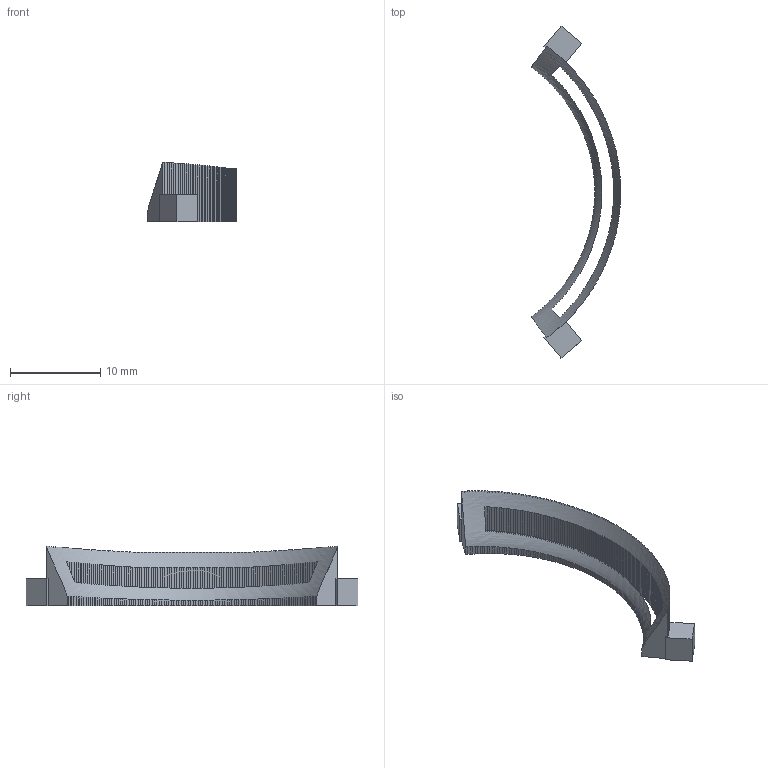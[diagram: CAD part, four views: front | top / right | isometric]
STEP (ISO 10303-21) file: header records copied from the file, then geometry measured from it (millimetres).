
FILE_DESCRIPTION(('Open CASCADE Model'),'2;1');
FILE_NAME('Open CASCADE Shape Model','2026-10-12T02:20:37',('Author'),( 'Open CASCADE'),'Open CASCADE STEP processor 8.0','build123d', 'Unknown');
FILE_SCHEMA(('AUTOMOTIVE_DESIGN { 1 0 10303 214 1 1 1 1 }'));
Products named in the file (1): COMPOUND
Bounding box: 9.94 x 36.88 x 6.61 mm (x, y, z)
Volume: 267.9 mm3; surface area: 770.1 mm2
Topology: 1 solids, 1 shells, 500 faces, 1482 edges, 988 vertices
Faces by surface type: plane 495, cylinder 4, bspline 1
Full cylindrical faces by diameter (mm): 1.05 x2, 1.9 x2
Entity records: 64960 total; most frequent: CARTESIAN_POINT 38226, DIRECTION 3964, ORIENTED_EDGE 2964, PCURVE 2964, DEFINITIONAL_REPRESENTATION 2964, LINE 2942, VECTOR 2942, B_SPLINE_CURVE_WITH_KNOTS 1488
